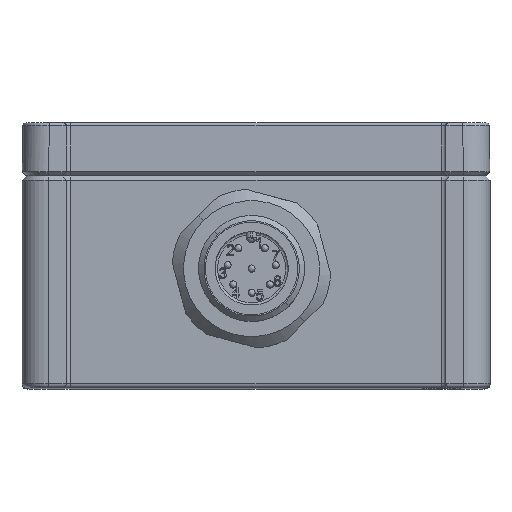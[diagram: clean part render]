
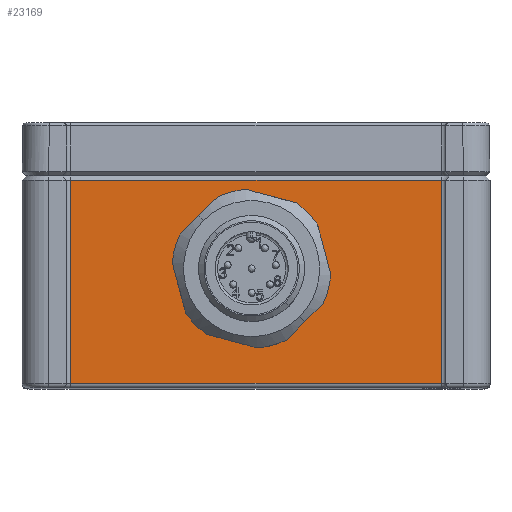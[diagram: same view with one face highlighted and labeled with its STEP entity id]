
A CAD part, top view. The second image highlights one B-rep face of the part: STEP entity #23169.
In plain terms, the highlighted planar face has unit normal (0, 0, 1).
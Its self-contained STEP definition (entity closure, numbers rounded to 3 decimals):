
#351 = CARTESIAN_POINT ( 'NONE',  ( -0.5, 10.5, 37.5 ) ) ;
#1664 = CARTESIAN_POINT ( 'NONE',  ( 21., 20.5, 37.5 ) ) ;
#4389 = EDGE_CURVE ( 'NONE', #51590, #8904, #15165, .T. ) ;
#5514 = CARTESIAN_POINT ( 'NONE',  ( -21., -2.5, 37.5 ) ) ;
#6330 = CIRCLE ( 'NONE', #45430, 8. ) ;
#7278 = DIRECTION ( 'NONE',  ( 1., 0., 0. ) ) ;
#8011 = AXIS2_PLACEMENT_3D ( 'NONE', #58232, #34118, #46766 ) ;
#8904 = VERTEX_POINT ( 'NONE', #14068 ) ;
#10136 = EDGE_CURVE ( 'NONE', #39125, #33367, #12115, .T. ) ;
#10163 = ORIENTED_EDGE ( 'NONE', *, *, #67708, .F. ) ;
#11087 = ORIENTED_EDGE ( 'NONE', *, *, #17104, .T. ) ;
#12023 = EDGE_CURVE ( 'NONE', #51590, #33367, #48987, .T. ) ;
#12115 = LINE ( 'NONE', #1664, #54786 ) ;
#14068 = CARTESIAN_POINT ( 'NONE',  ( -21., 20.5, 37.5 ) ) ;
#15165 = LINE ( 'NONE', #44599, #74203 ) ;
#16240 = CARTESIAN_POINT ( 'NONE',  ( -8.5, 10.5, 37.5 ) ) ;
#16441 = ORIENTED_EDGE ( 'NONE', *, *, #10136, .F. ) ;
#17104 = EDGE_CURVE ( 'NONE', #39125, #8904, #59391, .T. ) ;
#18341 = CARTESIAN_POINT ( 'NONE',  ( -0.5, 10.5, 37.5 ) ) ;
#19165 = CARTESIAN_POINT ( 'NONE',  ( -21., -2.5, 37.5 ) ) ;
#21380 = EDGE_LOOP ( 'NONE', ( #10163, #36847 ) ) ;
#21941 = CARTESIAN_POINT ( 'NONE',  ( 21., -2.5, 37.5 ) ) ;
#23169 = ADVANCED_FACE ( 'NONE', ( #31856, #52492 ), #51343, .F. ) ;
#23731 = DIRECTION ( 'NONE',  ( 1., 0., 0. ) ) ;
#28482 = VERTEX_POINT ( 'NONE', #16240 ) ;
#29774 = EDGE_CURVE ( 'NONE', #28482, #64982, #6330, .T. ) ;
#30300 = DIRECTION ( 'NONE',  ( -1., 0., 0. ) ) ;
#31452 = CARTESIAN_POINT ( 'NONE',  ( 21., 20.5, 37.5 ) ) ;
#31755 = DIRECTION ( 'NONE',  ( 1., 0., 0. ) ) ;
#31856 = FACE_BOUND ( 'NONE', #21380, .T. ) ;
#31860 = VECTOR ( 'NONE', #31755, 1000. ) ;
#33367 = VERTEX_POINT ( 'NONE', #21941 ) ;
#34118 = DIRECTION ( 'NONE',  ( 0., 0., -1. ) ) ;
#36847 = ORIENTED_EDGE ( 'NONE', *, *, #29774, .F. ) ;
#39125 = VERTEX_POINT ( 'NONE', #31452 ) ;
#41676 = DIRECTION ( 'NONE',  ( 0., 0., 1. ) ) ;
#42565 = CIRCLE ( 'NONE', #64599, 8. ) ;
#44599 = CARTESIAN_POINT ( 'NONE',  ( -21., -2.5, 37.5 ) ) ;
#45430 = AXIS2_PLACEMENT_3D ( 'NONE', #351, #59652, #23731 ) ;
#46766 = DIRECTION ( 'NONE',  ( -1., 0., 0. ) ) ;
#48300 = CARTESIAN_POINT ( 'NONE',  ( 21., 20.5, 37.5 ) ) ;
#48987 = LINE ( 'NONE', #19165, #31860 ) ;
#50336 = DIRECTION ( 'NONE',  ( 0., 1., 0. ) ) ;
#50766 = CARTESIAN_POINT ( 'NONE',  ( 7.5, 10.5, 37.5 ) ) ;
#51343 = PLANE ( 'NONE',  #8011 ) ;
#51590 = VERTEX_POINT ( 'NONE', #5514 ) ;
#52492 = FACE_OUTER_BOUND ( 'NONE', #67512, .T. ) ;
#53241 = ORIENTED_EDGE ( 'NONE', *, *, #12023, .T. ) ;
#54786 = VECTOR ( 'NONE', #65647, 1000. ) ;
#58232 = CARTESIAN_POINT ( 'NONE',  ( 0., 21., 37.5 ) ) ;
#59391 = LINE ( 'NONE', #48300, #68178 ) ;
#59652 = DIRECTION ( 'NONE',  ( 0., 0., 1. ) ) ;
#64599 = AXIS2_PLACEMENT_3D ( 'NONE', #18341, #41676, #7278 ) ;
#64982 = VERTEX_POINT ( 'NONE', #50766 ) ;
#65647 = DIRECTION ( 'NONE',  ( 0., -1., 0. ) ) ;
#67512 = EDGE_LOOP ( 'NONE', ( #70251, #53241, #16441, #11087 ) ) ;
#67708 = EDGE_CURVE ( 'NONE', #64982, #28482, #42565, .T. ) ;
#68178 = VECTOR ( 'NONE', #30300, 1000. ) ;
#70251 = ORIENTED_EDGE ( 'NONE', *, *, #4389, .F. ) ;
#74203 = VECTOR ( 'NONE', #50336, 1000. ) ;
